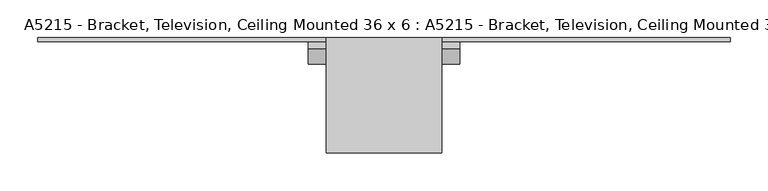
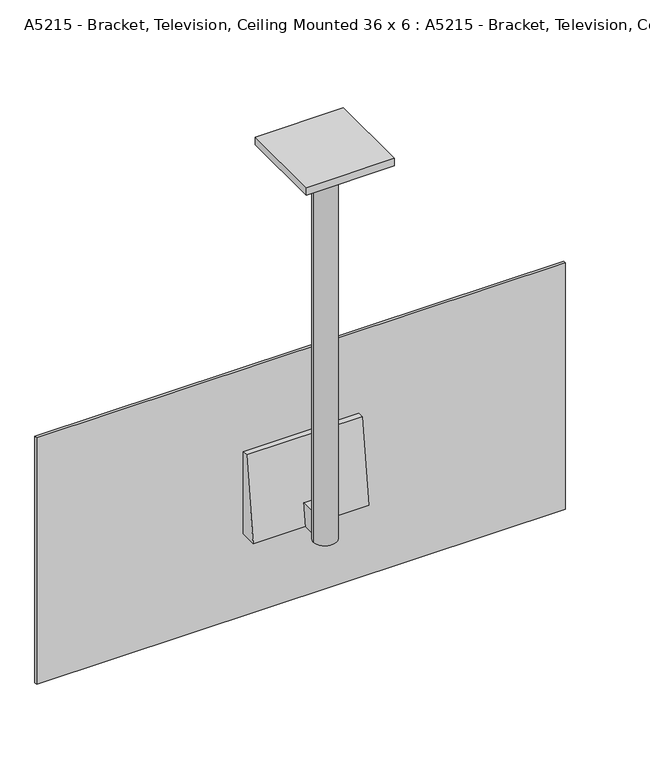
"""IFC4 building model written with IfcOpenShell, lengths in millimetres: proxy geometry."""

from ifc_helpers import new_model, si_unit, point, frame, frame_2d, origin, origin_with_axes, place, context, project, spatial, polyline, circle_curve, trimmed, segment, composite_curve, outline, extrude, source, transform, mapped, element, save


def proxy_77f56c46(model_context):
    return source(origin(), model_context, "Body", "SweptSolid", [
        extrude(outline(polyline([(452.2, 300.0), (452.2, 150.0), (422.2, 150.0), (442.2, 300.0), (452.2, 300.0)])), frame((-481.0, 0.0, 0.0), z_axis=(1.0, 0.0, 0.0), x_axis=(0.0, 1.0, 0.0)), (0.0, 0.0, 1.0), 200.0),
        extrude(outline(composite_curve([segment(trimmed(circle_curve(frame_2d((-381.0, 381.0)), 20.0), [point((-401.0, 381.0))], [point((-361.0, 381.0))], False, "CARTESIAN"), True, "CONTINUOUS"), segment(trimmed(circle_curve(frame_2d((-381.0, 381.0)), 20.0), [point((-361.0, 381.0))], [point((-401.0, 381.0))], False, "CARTESIAN"), True, "CONTINUOUS")], self_intersect=False)), frame((0.0, 0.0, 150.0), z_axis=(0.0, 0.0, 1.0), x_axis=(1.0, 0.0, 0.0)), (0.0, 0.0, 1.0), 700.0),
        extrude(outline(polyline([(-304.8, 304.8), (-457.2, 304.8), (-457.2, 457.2), (-304.8, 457.2), (-304.8, 304.8)])), frame((0.0, 0.0, 850.0), z_axis=(0.0, 0.0, 1.0), x_axis=(1.0, 0.0, 0.0)), (0.0, 0.0, 1.0), 13.6),
        extrude(outline(polyline([(-371.0, 442.2), (-371.0, 381.0), (-391.0, 381.0), (-391.0, 442.2), (-371.0, 442.2)])), frame((0.0, 0.0, 150.0), z_axis=(0.0, 0.0, 1.0), x_axis=(1.0, 0.0, 0.0)), (0.0, 0.0, 1.0), 40.0),
        extrude(outline(polyline([(-838.2, 457.2), (76.2, 457.2), (76.2, 452.2), (-838.2, 452.2), (-838.2, 457.2)])), origin_with_axes(), (0.0, 0.0, 1.0), 450.0),
    ])


if __name__ == "__main__":
    model = new_model("IFC4")
    model_context = context("Model", 3, world=origin())
    ifc_project = project(units=[si_unit("LENGTHUNIT", "METRE", prefix="MILLI")], contexts=[model_context])
    site = spatial("IfcSite", under=ifc_project)
    building = spatial("IfcBuilding", under=site)
    placement = place(None, origin())
    proxy_shape = proxy_77f56c46(model_context)
    element("IfcBuildingElementProxy", 1, Name="A5215 - Bracket, Television, Ceiling Mounted 36 x 6 : A5215 - Bracket, Television, Ceiling Mounted 36\"x 6\"", ObjectType="A5215 - Bracket, Television, Ceiling Mounted 36 x 6 : A5215 - Bracket, Television, Ceiling Mounted 36\"x 6\"", at=placement, inside=building, context=model_context, shape_type="MappedRepresentation", body=[
        mapped(proxy_shape, transform((0.0, 0.0, 0.0), x_axis=(1.0, 0.0, 0.0), y_axis=(0.0, 1.0, 0.0), z_axis=(0.0, 0.0, 1.0))),
    ])
    save(model, "model.ifc")
